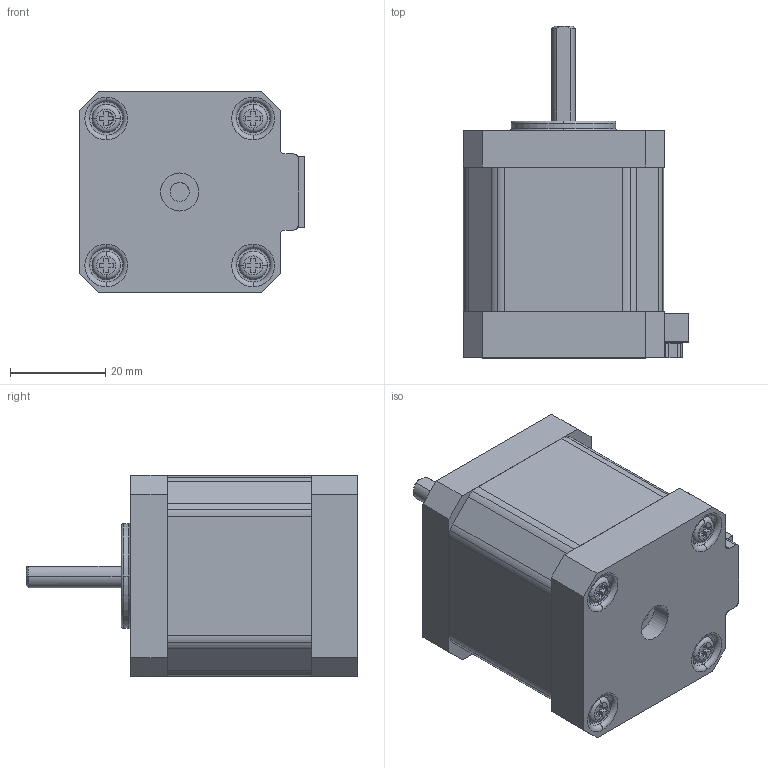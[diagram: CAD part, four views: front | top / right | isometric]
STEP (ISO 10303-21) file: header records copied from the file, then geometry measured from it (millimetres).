
FILE_DESCRIPTION(('CATIA V5 STEP Exchange'),'2;1');
FILE_NAME('C:\Users\user\Documents\Jakob\BAC - Arbeit 1\CAD Modell\CAD-Modell-Step files\stepper\Nema 17 Stepper.stp','2018-12-13T14:07:49+00:00',('none'),('none'),'Version 5-6 Release 2012','CATIA V5 STEP AP203','none');
FILE_SCHEMA(('CONFIG_CONTROL_DESIGN'));
Length unit declared in the file: millimetre
Products named in the file (1): Nema17
Bounding box: 47.5 x 69.8 x 42.3 mm (x, y, z)
Volume: 82273.1 mm3; surface area: 13057 mm2
Topology: 1 solids, 1 shells, 251 faces, 684 edges, 462 vertices
Faces by surface type: plane 157, cylinder 63, torus 20, cone 11
Entity records: 8198 total; most frequent: CARTESIAN_POINT 1850, ORIENTED_EDGE 1368, DIRECTION 1145, EDGE_CURVE 684, VERTEX_POINT 462, AXIS2_PLACEMENT_3D 459, VECTOR 438, LINE 438
